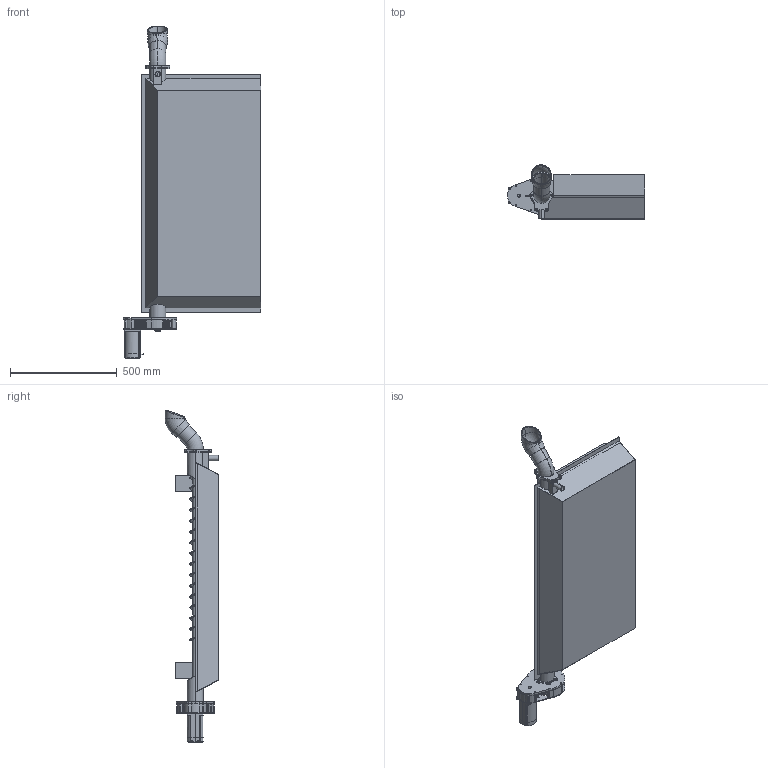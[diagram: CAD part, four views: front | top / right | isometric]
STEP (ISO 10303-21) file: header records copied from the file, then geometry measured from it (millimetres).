
FILE_DESCRIPTION (( 'STEP AP203' ), '1' );
FILE_NAME ('Langmuir MR1 Chip Auger System.STEP', '2026-02-21T02:23:02', ( '' ), ( '' ), 'SwSTEP 2.0', 'SolidWorks 2025', '' );
FILE_SCHEMA (( 'CONFIG_CONTROL_DESIGN' ));
Length unit declared in the file: inch
Products named in the file (15): GF12N080_BMLD1N; 2938T738_High-Load Oil-Embedded Sleeve Bearing_2938T738; GF12N080_BMLD1N_5; Chip auger layout r2; 6412K41_Set Screw Shaft Coupling_6412K41; GF12N080_BMLD1N_3; 2938T705_High-Load Oil-Embedded Sleeve Bearing_2938T705; GF12N080_BMLD1N_7; auger; 20tooth gear_7880K29; chip auger outlet 2-16-2025; 40tooth gear_7880K35; 875 axle spacer; GF12N080_BMLD1N_9; Langmuir MR1 Chip Auger System
Assembly tree (15 placements, depth 3):
  Langmuir MR1 Chip Auger System
    Chip auger layout r2
    2938T705_High-Load Oil-Embedded Sleeve Bearing_2938T705  x2
    2938T738_High-Load Oil-Embedded Sleeve Bearing_2938T738
    20tooth gear_7880K29
    40tooth gear_7880K35
    GF12N080_BMLD1N
      GF12N080_BMLD1N_3
      GF12N080_BMLD1N_5
      GF12N080_BMLD1N_7
      GF12N080_BMLD1N_9
    6412K41_Set Screw Shaft Coupling_6412K41
    875 axle spacer
    chip auger outlet 2-16-2025
    auger
Bounding box: 643.35 x 252.38 x 1556.94 mm (x, y, z)
Volume: 60343076.2 mm3; surface area: 4339321.1 mm2
Topology: 33 solids, 33 shells, 2484 faces, 6242 edges, 3844 vertices
Faces by surface type: cylinder 993, cone 602, plane 438, bspline 377, torus 74
Entity records: 164565 total; most frequent: CARTESIAN_POINT 105325, ORIENTED_EDGE 12400, DIRECTION 11486, EDGE_CURVE 6200, AXIS2_PLACEMENT_3D 4561, VERTEX_POINT 3822, EDGE_LOOP 2860, ADVANCED_FACE 2465
